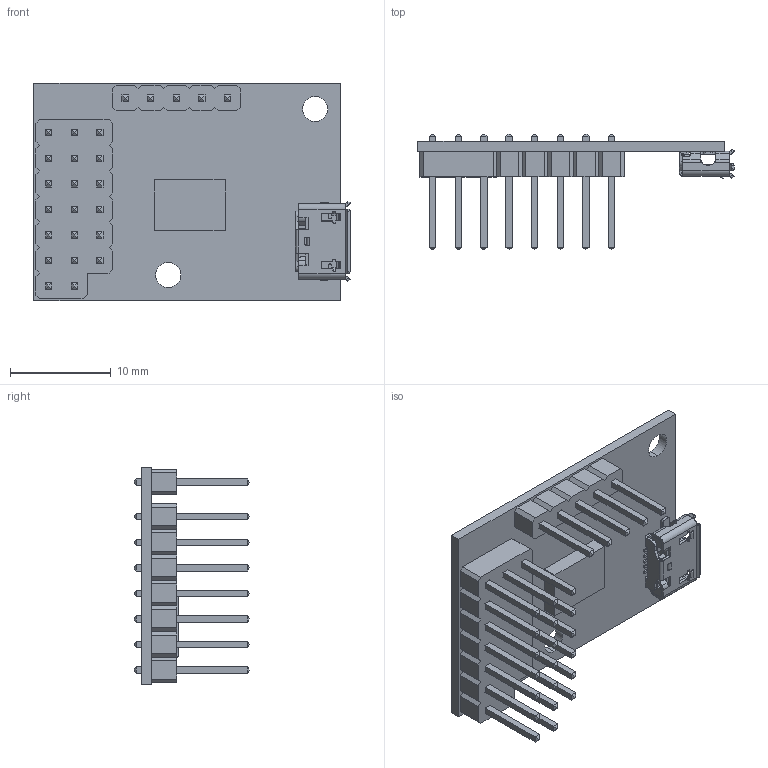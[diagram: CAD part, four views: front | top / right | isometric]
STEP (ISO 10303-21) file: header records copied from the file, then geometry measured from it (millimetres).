
FILE_DESCRIPTION (( 'STEP AP203' ), '1' );
FILE_NAME ('Ass_Micro_Maestro6ch.STEP', '2013-10-11T07:03:15', ( 'Admin' ), ( 'Microsoft' ), 'SwSTEP 2.0', 'SolidWorks 2005143', '' );
FILE_SCHEMA (( 'CONFIG_CONTROL_DESIGN' ));
Length unit declared in the file: millimetre
Products named in the file (8): Micro_Maestro_PCB; Pin_sraiele; Pin_a_I; Ass_Micro_Maestro6ch; Pin Body Maestro; micro USB; micro usb; micro usb02
Assembly tree (31 placements, depth 3):
  Ass_Micro_Maestro6ch
    Pin Body Maestro
    Pin_a_I  x25
    micro USB
      micro usb
      micro usb02
    Micro_Maestro_PCB
    Pin_sraiele
Bounding box: 31.43 x 11.48 x 21.6 mm (x, y, z)
Volume: 1235.5 mm3; surface area: 3166.3 mm2
Topology: 35 solids, 35 shells, 1746 faces, 4203 edges, 2488 vertices
Faces by surface type: plane 878, bspline 438, cylinder 430
Entity records: 50175 total; most frequent: CARTESIAN_POINT 15517, ORIENTED_EDGE 7202, DIRECTION 6744, EDGE_CURVE 3601, AXIS2_PLACEMENT_3D 2300, VERTEX_POINT 2176, VECTOR 2144, LINE 2144
